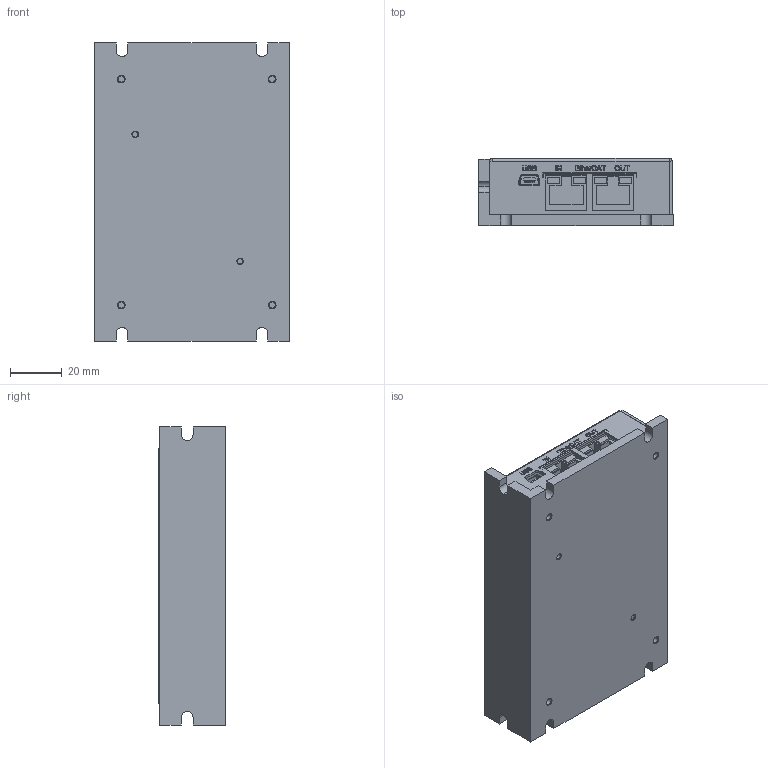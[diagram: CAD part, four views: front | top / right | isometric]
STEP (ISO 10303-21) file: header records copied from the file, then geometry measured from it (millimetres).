
FILE_DESCRIPTION (( 'STEP AP203' ), '1' );
FILE_NAME ('gold-dc-whistle.STEP', '2013-09-03T05:19:05', ( 'YAEL' ), ( 'Microsoft' ), 'SwSTEP 2.0', 'SolidWorks 2013', '' );
FILE_SCHEMA (( 'CONFIG_CONTROL_DESIGN' ));
Products named in the file (1): gold-dc-whistle
Bounding box: 75 x 25.8 x 115 mm (x, y, z)
Volume: 66362.4 mm3; surface area: 63566.1 mm2
Topology: 18 solids, 18 shells, 3719 faces, 9820 edges, 6398 vertices
Faces by surface type: plane 3037, cylinder 371, bspline 240, cone 69, sphere 2
Entity records: 126264 total; most frequent: CARTESIAN_POINT 35054, ORIENTED_EDGE 19628, DIRECTION 17147, EDGE_CURVE 9814, LINE 8445, VECTOR 8445, VERTEX_POINT 6394, AXIS2_PLACEMENT_3D 4351
